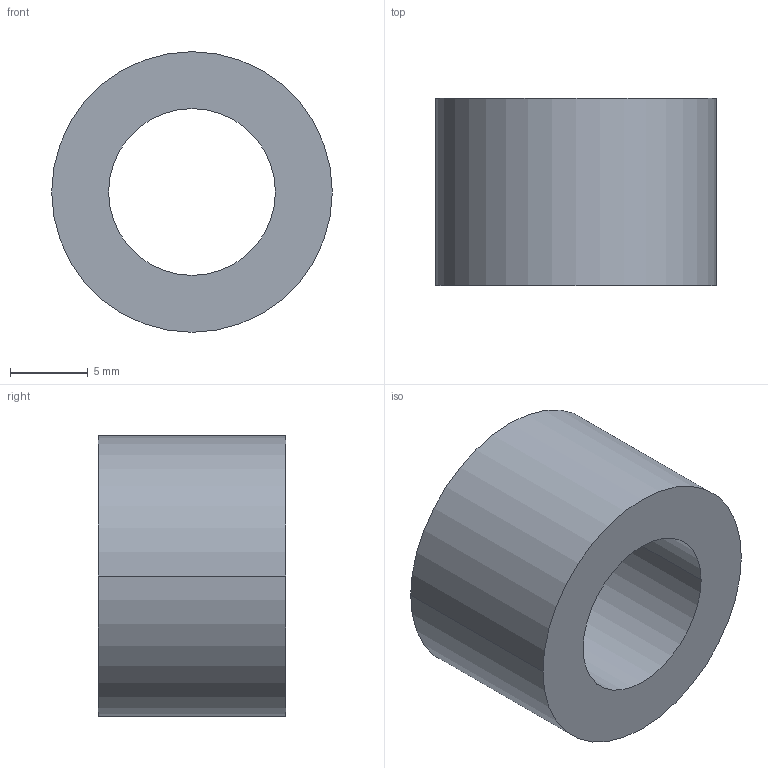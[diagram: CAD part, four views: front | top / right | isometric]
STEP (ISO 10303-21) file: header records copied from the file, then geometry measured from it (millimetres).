
FILE_DESCRIPTION (( 'STEP AP203' ), '1' );
FILE_NAME ('30800.WPP18E10.7.step', '2019-01-23T22:35:28', ( '' ), ( '' ), 'SwSTEP 2.0', 'SolidWorks 2017', '' );
FILE_SCHEMA (( 'CONFIG_CONTROL_DESIGN' ));
Length unit declared in the file: millimetre
Products named in the file (1): 30800.WPP18E10.7
Bounding box: 18 x 12 x 18 mm (x, y, z)
Volume: 1943.3 mm3; surface area: 1384 mm2
Topology: 1 solids, 1 shells, 8 faces, 16 edges, 10 vertices
Faces by surface type: cylinder 4, torus 2, plane 2
Entity records: 297 total; most frequent: DIRECTION 46, CARTESIAN_POINT 35, ORIENTED_EDGE 32, AXIS2_PLACEMENT_3D 21, EDGE_CURVE 16, CIRCLE 12, VERTEX_POINT 10, EDGE_LOOP 10
